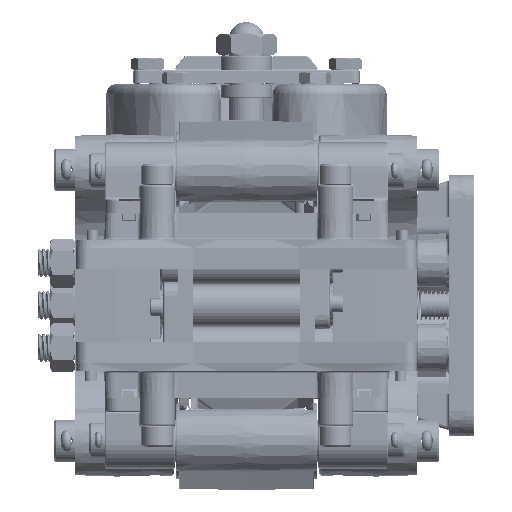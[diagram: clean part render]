
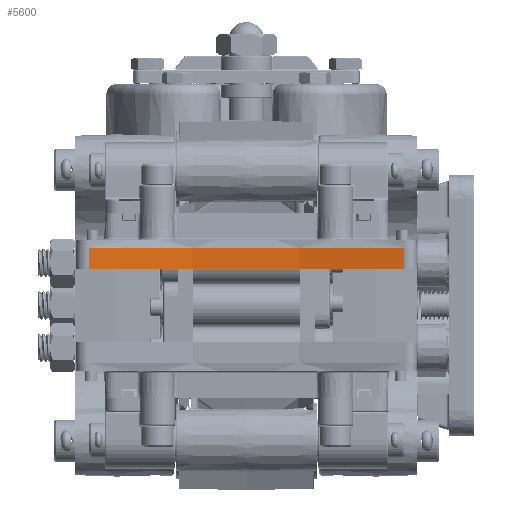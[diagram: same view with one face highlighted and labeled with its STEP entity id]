
A CAD part, left-side view. The second image highlights one B-rep face of the part: STEP entity #5600.
In plain terms, the highlighted cylindrical face has radius 317.5 mm (diameter 635 mm), a partial arc.
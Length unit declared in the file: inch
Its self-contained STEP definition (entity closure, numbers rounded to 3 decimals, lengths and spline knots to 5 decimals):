
#5600 = ADVANCED_FACE ( 'NONE', ( #87537 ), #102954, .F. ) ;
#18266 = VECTOR ( 'NONE', #85014, 39.37008 ) ;
#20047 = DIRECTION ( 'NONE',  ( 0., 0., -1. ) ) ;
#24009 = DIRECTION ( 'NONE',  ( 0., 0., -1. ) ) ;
#24475 = CARTESIAN_POINT ( 'NONE',  ( -2.81549, -2.79064, 1.015 ) ) ;
#25189 = EDGE_CURVE ( 'NONE', #58451, #142185, #134617, .T. ) ;
#29543 = VERTEX_POINT ( 'NONE', #57070 ) ;
#30361 = EDGE_CURVE ( 'NONE', #29543, #56329, #90653, .T. ) ;
#36280 = DIRECTION ( 'NONE',  ( 0., 1., 0. ) ) ;
#37631 = AXIS2_PLACEMENT_3D ( 'NONE', #107859, #20047, #36280 ) ;
#39592 = CARTESIAN_POINT ( 'NONE',  ( -15., 0., 1.015 ) ) ;
#56329 = VERTEX_POINT ( 'NONE', #72416 ) ;
#57070 = CARTESIAN_POINT ( 'NONE',  ( -2.81549, 2.79064, 1.015 ) ) ;
#57997 = EDGE_CURVE ( 'NONE', #29543, #58451, #107723, .T. ) ;
#58451 = VERTEX_POINT ( 'NONE', #24475 ) ;
#67266 = ORIENTED_EDGE ( 'NONE', *, *, #25189, .F. ) ;
#72416 = CARTESIAN_POINT ( 'NONE',  ( -2.81549, 2.79064, 0.64 ) ) ;
#72875 = CARTESIAN_POINT ( 'NONE',  ( -2.81549, -2.79064, 0.64 ) ) ;
#75358 = DIRECTION ( 'NONE',  ( 0., 1., 0. ) ) ;
#77808 = AXIS2_PLACEMENT_3D ( 'NONE', #39592, #138724, #75358 ) ;
#82220 = CARTESIAN_POINT ( 'NONE',  ( -2.81549, 2.79064, 1.015 ) ) ;
#85014 = DIRECTION ( 'NONE',  ( 0., 0., -1. ) ) ;
#86600 = ORIENTED_EDGE ( 'NONE', *, *, #57997, .F. ) ;
#87537 = FACE_OUTER_BOUND ( 'NONE', #104745, .T. ) ;
#90653 = LINE ( 'NONE', #82220, #117152 ) ;
#91394 = ORIENTED_EDGE ( 'NONE', *, *, #106285, .T. ) ;
#92759 = ORIENTED_EDGE ( 'NONE', *, *, #30361, .T. ) ;
#96431 = CARTESIAN_POINT ( 'NONE',  ( -2.81549, -2.79064, 1.015 ) ) ;
#102954 = CYLINDRICAL_SURFACE ( 'NONE', #77808, 12.5 ) ;
#104745 = EDGE_LOOP ( 'NONE', ( #91394, #67266, #86600, #92759 ) ) ;
#106285 = EDGE_CURVE ( 'NONE', #56329, #142185, #124793, .T. ) ;
#107723 = CIRCLE ( 'NONE', #37631, 12.5 ) ;
#107859 = CARTESIAN_POINT ( 'NONE',  ( -15., 0., 1.015 ) ) ;
#110206 = CARTESIAN_POINT ( 'NONE',  ( -15., 0., 0.64 ) ) ;
#117152 = VECTOR ( 'NONE', #143210, 39.37008 ) ;
#122251 = AXIS2_PLACEMENT_3D ( 'NONE', #110206, #24009, #149962 ) ;
#124793 = CIRCLE ( 'NONE', #122251, 12.5 ) ;
#134617 = LINE ( 'NONE', #96431, #18266 ) ;
#138724 = DIRECTION ( 'NONE',  ( 0., 0., -1. ) ) ;
#142185 = VERTEX_POINT ( 'NONE', #72875 ) ;
#143210 = DIRECTION ( 'NONE',  ( 0., 0., -1. ) ) ;
#149962 = DIRECTION ( 'NONE',  ( 0., 1., 0. ) ) ;
